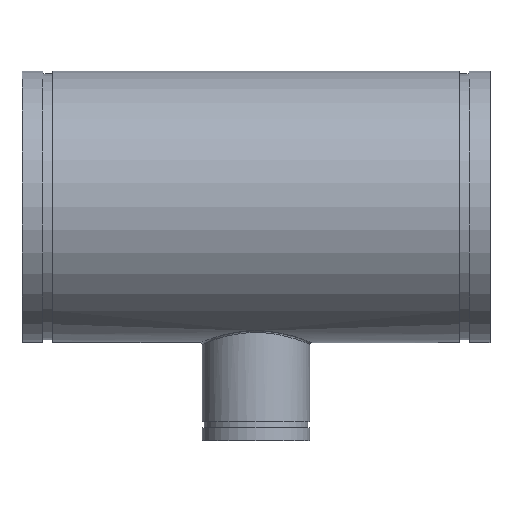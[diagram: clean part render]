
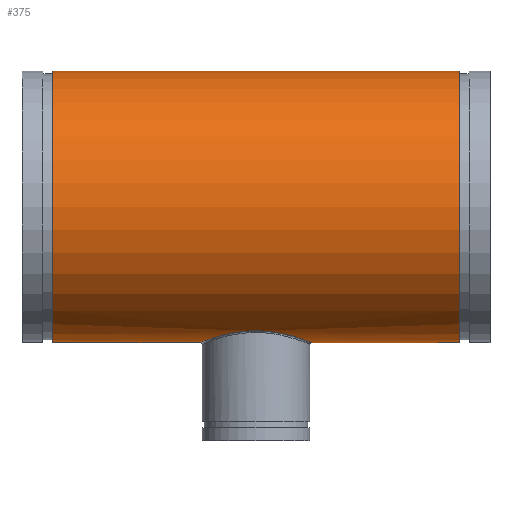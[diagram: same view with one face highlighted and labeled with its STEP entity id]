
A CAD part, top view. The second image highlights one B-rep face of the part: STEP entity #375.
In plain terms, the highlighted cylindrical face has radius 220.98 mm (diameter 441.96 mm), a full revolution.
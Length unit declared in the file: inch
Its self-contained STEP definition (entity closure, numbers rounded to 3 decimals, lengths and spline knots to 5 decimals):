
#54=FACE_BOUND('',#119,.T.);
#65=LINE('',#784,#76);
#76=VECTOR('',#483,8.7);
#87=CYLINDRICAL_SURFACE('',#415,8.7);
#98=FACE_OUTER_BOUND('',#118,.T.);
#118=EDGE_LOOP('',(#266,#267,#268,#269));
#119=EDGE_LOOP('',(#270));
#150=B_SPLINE_CURVE_WITH_KNOTS('',3,(#757,#758,#759,#760,#761,#762,#763,
#764,#765,#766,#767,#768,#769,#770,#771,#772,#773,#774,#775,#776,#777,#778,
#779),.UNSPECIFIED.,.T.,.F.,(4,1,1,1,1,1,1,1,1,1,1,1,1,1,1,1,1,1,1,1,4),
(-53.45813,-51.54891,-49.6397,-45.82126,
-43.27563,-40.73001,-38.18438,-35.63876,
-33.09313,-30.5475,-28.00188,-25.45625,
-22.91063,-17.81938,-15.27375,-12.72813,
-10.1825,-7.63688,-3.81844,-1.90922,
0.),.UNSPECIFIED.);
#154=CIRCLE('',#416,8.7);
#155=CIRCLE('',#417,8.7);
#182=VERTEX_POINT('',#726);
#185=VERTEX_POINT('',#781);
#186=VERTEX_POINT('',#783);
#219=EDGE_CURVE('',#182,#182,#150,.T.);
#220=EDGE_CURVE('',#185,#185,#154,.T.);
#221=EDGE_CURVE('',#185,#186,#65,.T.);
#222=EDGE_CURVE('',#186,#186,#155,.T.);
#266=ORIENTED_EDGE('',*,*,#220,.T.);
#267=ORIENTED_EDGE('',*,*,#221,.T.);
#268=ORIENTED_EDGE('',*,*,#222,.T.);
#269=ORIENTED_EDGE('',*,*,#221,.F.);
#270=ORIENTED_EDGE('',*,*,#219,.F.);
#375=ADVANCED_FACE('',(#98,#54),#87,.T.);
#415=AXIS2_PLACEMENT_3D('',#780,#479,#480);
#416=AXIS2_PLACEMENT_3D('',#782,#481,#482);
#417=AXIS2_PLACEMENT_3D('',#785,#484,#485);
#479=DIRECTION('center_axis',(-1.,0.,0.));
#480=DIRECTION('ref_axis',(0.,-1.,0.));
#481=DIRECTION('center_axis',(1.,0.,0.));
#482=DIRECTION('ref_axis',(0.,-1.,0.));
#483=DIRECTION('',(1.,0.,0.));
#484=DIRECTION('center_axis',(-1.,0.,0.));
#485=DIRECTION('ref_axis',(0.,-1.,0.));
#726=CARTESIAN_POINT('',(0.,-7.95417,-3.52436));
#757=CARTESIAN_POINT('Ctrl Pts',(0.,-7.95417,
-3.52436));
#758=CARTESIAN_POINT('Ctrl Pts',(0.27038,-7.95417,-3.52436));
#759=CARTESIAN_POINT('Ctrl Pts',(0.81089,-7.98154,-3.46343));
#760=CARTESIAN_POINT('Ctrl Pts',(1.82799,-8.13143,-3.10878));
#761=CARTESIAN_POINT('Ctrl Pts',(2.74199,-8.38968,-2.38748));
#762=CARTESIAN_POINT('Ctrl Pts',(3.37322,-8.61907,-1.31888));
#763=CARTESIAN_POINT('Ctrl Pts',(3.61993,-8.71824,-0.27119));
#764=CARTESIAN_POINT('Ctrl Pts',(3.53646,-8.68405,0.80594));
#765=CARTESIAN_POINT('Ctrl Pts',(3.13621,-8.52929,1.79829));
#766=CARTESIAN_POINT('Ctrl Pts',(2.46741,-8.3071,2.62109));
#767=CARTESIAN_POINT('Ctrl Pts',(1.58494,-8.08802,3.21755));
#768=CARTESIAN_POINT('Ctrl Pts',(0.54831,-7.94862,3.53766));
#769=CARTESIAN_POINT('Ctrl Pts',(-0.54825,-7.94825,3.53741));
#770=CARTESIAN_POINT('Ctrl Pts',(-1.93085,-8.13518,3.11152));
#771=CARTESIAN_POINT('Ctrl Pts',(-3.0032,-8.47814,2.12955));
#772=CARTESIAN_POINT('Ctrl Pts',(-3.53629,-8.68388,0.80574));
#773=CARTESIAN_POINT('Ctrl Pts',(-3.61996,-8.71828,-0.27109));
#774=CARTESIAN_POINT('Ctrl Pts',(-3.37318,-8.61905,-1.31895));
#775=CARTESIAN_POINT('Ctrl Pts',(-2.74201,-8.3897,-2.38745));
#776=CARTESIAN_POINT('Ctrl Pts',(-1.82796,-8.13141,-3.10881));
#777=CARTESIAN_POINT('Ctrl Pts',(-0.81089,-7.98155,-3.46342));
#778=CARTESIAN_POINT('Ctrl Pts',(-0.27038,-7.95417,-3.52436));
#779=CARTESIAN_POINT('Ctrl Pts',(0.,-7.95417,
-3.52436));
#780=CARTESIAN_POINT('Origin',(15.,0.,0.));
#781=CARTESIAN_POINT('',(-13.035,8.7,0.));
#782=CARTESIAN_POINT('Origin',(-13.035,0.,0.));
#783=CARTESIAN_POINT('',(13.035,8.7,0.));
#784=CARTESIAN_POINT('',(15.,8.7,0.));
#785=CARTESIAN_POINT('Origin',(13.035,0.,0.));
